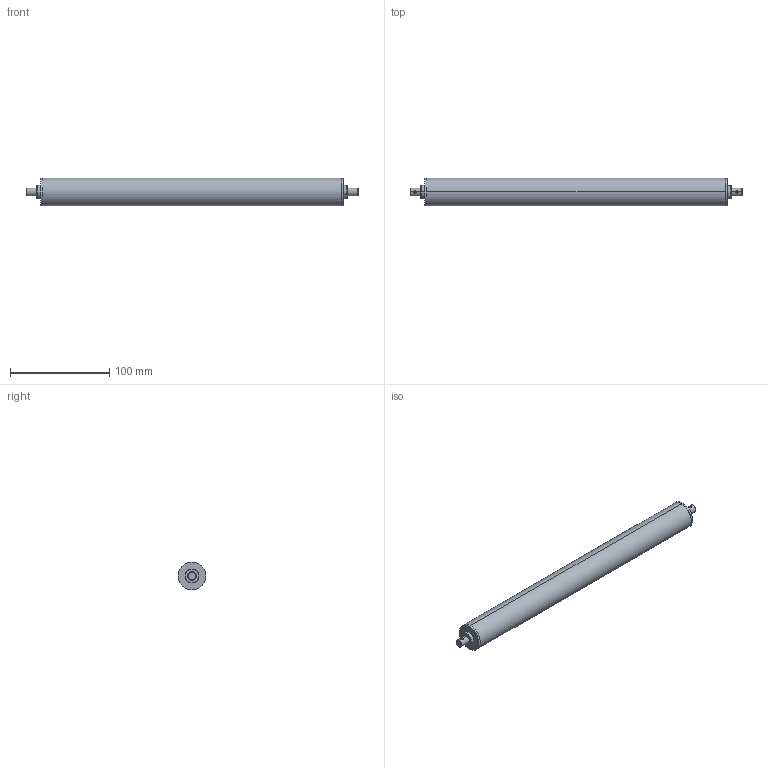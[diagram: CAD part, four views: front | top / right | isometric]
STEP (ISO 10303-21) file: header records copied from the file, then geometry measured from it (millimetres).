
FILE_DESCRIPTION (( 'STEP AP203' ), '1' );
FILE_NAME ('HR-2812.STEP', '2022-03-25T00:28:21', ( 'Microsoft' ), ( 'Microsoft' ), 'SwSTEP 2.0', 'SolidWorks 2020', '' );
FILE_SCHEMA (( 'CONFIG_CONTROL_DESIGN' ));
Length unit declared in the file: millimetre
Products named in the file (4): HR-2812粣創釱; HR-2812粣; HR-2812; HR-2812-芠极
Assembly tree (4 placements, depth 2):
  HR-2812
    HR-2812粣
    HR-2812-芠极
    HR-2812粣創釱  x2
Bounding box: 335 x 28 x 28 mm (x, y, z)
Volume: 56767.5 mm3; surface area: 71291.9 mm2
Topology: 24 solids, 24 shells, 182 faces, 430 edges, 272 vertices
Faces by surface type: cylinder 66, sphere 40, plane 28, torus 28, cone 20
Entity records: 3196 total; most frequent: CARTESIAN_POINT 584, DIRECTION 532, ORIENTED_EDGE 384, AXIS2_PLACEMENT_3D 238, EDGE_CURVE 192, CIRCLE 128, VERTEX_POINT 122, EDGE_LOOP 118
